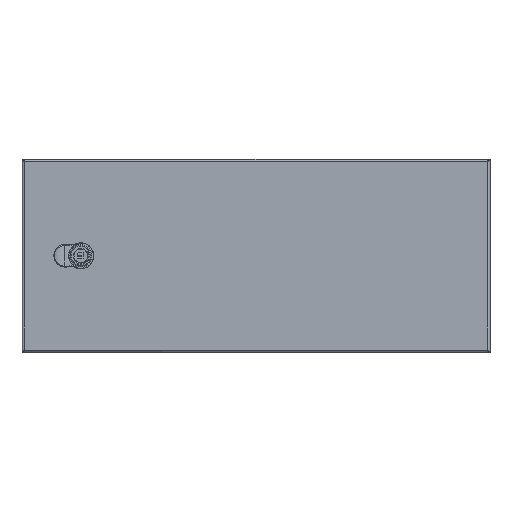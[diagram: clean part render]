
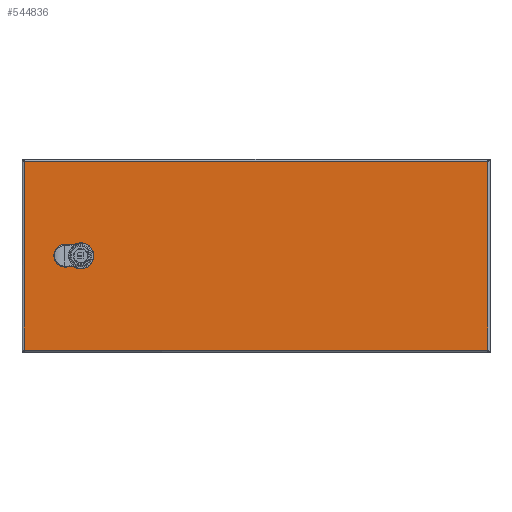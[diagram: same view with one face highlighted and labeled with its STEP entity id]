
A CAD part, top view. The second image highlights one B-rep face of the part: STEP entity #544836.
In plain terms, the highlighted planar face has unit normal (0, 0, 1).
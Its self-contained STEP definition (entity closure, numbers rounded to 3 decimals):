
#538746=CARTESIAN_POINT(' ',(289.389,122.733,269.003));
#538747=VERTEX_POINT(' ',#538746);
#539411=CARTESIAN_POINT(' ',(289.389,-116.667,269.003));
#539412=VERTEX_POINT(' ',#539411);
#540386=CARTESIAN_POINT(' ',(289.389,122.733,269.003));
#540391=DIRECTION(' ',(0.,-1.,0.));
#540396=VECTOR(' ',#540391,1.);
#540401=LINE('',#540386,#540396);
#540406=EDGE_CURVE(' ',#538747,#539412,#540401,.T.);
#542641=CARTESIAN_POINT(' ',(-299.011,-116.667,269.003));
#542642=VERTEX_POINT(' ',#542641);
#543256=CARTESIAN_POINT(' ',(-299.011,122.733,269.003));
#543257=VERTEX_POINT(' ',#543256);
#544706=DIRECTION(' ',(-0.,-0.,1.));
#544711=CARTESIAN_POINT(' ',(289.389,-116.667,269.003));
#544716=DIRECTION(' ',(0.,1.,0.));
#544721=AXIS2_PLACEMENT_3D(' ',#544711,#544706,#544716);
#544726=PLANE('NONE',#544721);
#544731=CARTESIAN_POINT(' ',(-299.011,-116.667,269.003));
#544736=DIRECTION(' ',(1.,0.,0.));
#544741=VECTOR(' ',#544736,1.);
#544746=LINE('',#544731,#544741);
#544751=EDGE_CURVE(' ',#542642,#539412,#544746,.T.);
#544756=ORIENTED_EDGE(' ',*,*,#544751,.T.);
#544761=ORIENTED_EDGE(' ',*,*,#540406,.F.);
#544766=CARTESIAN_POINT(' ',(289.389,122.733,269.003));
#544771=DIRECTION(' ',(-1.,0.,0.));
#544776=VECTOR(' ',#544771,1.);
#544781=LINE('',#544766,#544776);
#544786=EDGE_CURVE(' ',#538747,#543257,#544781,.T.);
#544791=ORIENTED_EDGE(' ',*,*,#544786,.T.);
#544796=CARTESIAN_POINT(' ',(-299.011,122.733,269.003));
#544801=DIRECTION(' ',(0.,-1.,0.));
#544806=VECTOR(' ',#544801,1.);
#544811=LINE('',#544796,#544806);
#544816=EDGE_CURVE(' ',#543257,#542642,#544811,.T.);
#544821=ORIENTED_EDGE(' ',*,*,#544816,.T.);
#544826=EDGE_LOOP(' ',(#544756,#544761,#544791,#544821));
#544831=FACE_OUTER_BOUND(' ',#544826,.T.);
#544836=ADVANCED_FACE('NONE',(#544831),#544726,.T.);
